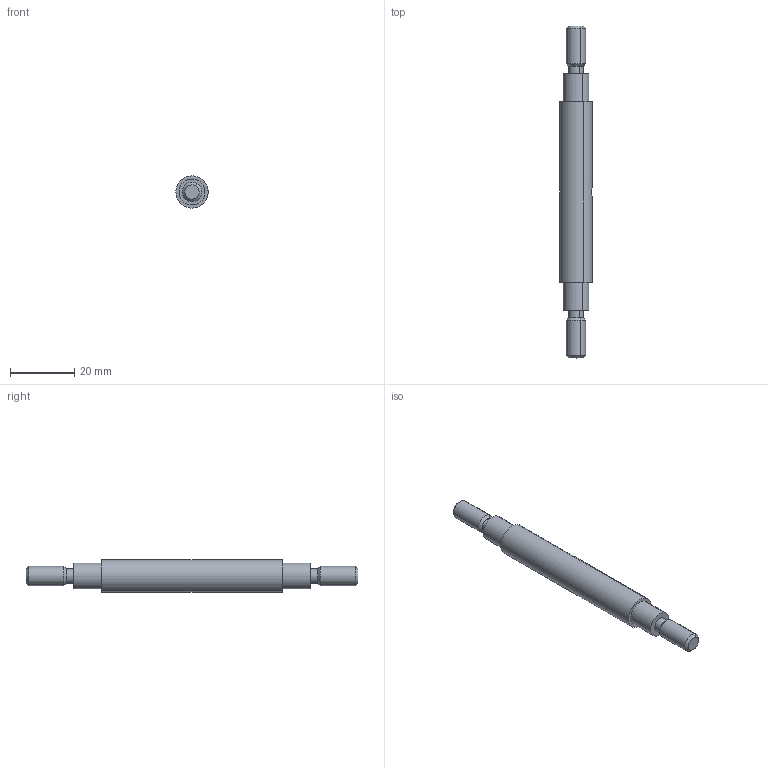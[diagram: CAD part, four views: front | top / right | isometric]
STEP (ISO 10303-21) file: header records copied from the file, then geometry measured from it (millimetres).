
FILE_DESCRIPTION(('CATIA V5 STEP Exchange'),'2;1');
FILE_NAME('C:\Users\Hashaam\Documents\CAD_Project\review\Brake_Pedal_Shaft_positioned.stp','2026-10-06T14:53:30+00:00',('none'),('none'),'CATIA Version 5 Release 21 GA (IN-10)','CATIA V5 STEP AP203','none');
FILE_SCHEMA(('CONFIG_CONTROL_DESIGN'));
Length unit declared in the file: millimetre
Products named in the file (1): Brake_Pedal_Shaft
Bounding box: 10 x 103 x 10 mm (x, y, z)
Volume: 6006.4 mm3; surface area: 2933.7 mm2
Topology: 1 solids, 1 shells, 32 faces, 64 edges, 37 vertices
Faces by surface type: cylinder 16, cone 10, plane 6
Entity records: 788 total; most frequent: CARTESIAN_POINT 148, ORIENTED_EDGE 124, DIRECTION 100, EDGE_CURVE 62, AXIS2_PLACEMENT_3D 55, EDGE_LOOP 37, VERTEX_POINT 37, CIRCLE 34
